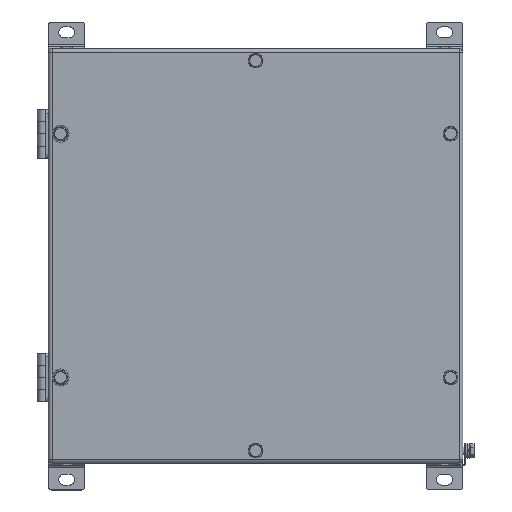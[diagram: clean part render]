
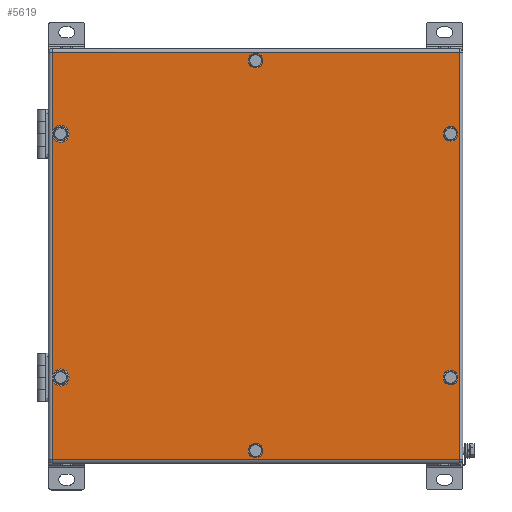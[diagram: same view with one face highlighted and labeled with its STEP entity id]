
A CAD part, top view. The second image highlights one B-rep face of the part: STEP entity #5619.
In plain terms, the highlighted planar face has unit normal (0, 0, 1).
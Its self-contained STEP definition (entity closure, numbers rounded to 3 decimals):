
#5115=CARTESIAN_POINT('',(167.0,-167.,150.));
#5116=VERTEX_POINT('',#5115);
#5182=CARTESIAN_POINT('',(167.0,167.,150.));
#5183=VERTEX_POINT('',#5182);
#5249=CARTESIAN_POINT('',(-167.0,-167.,150.));
#5250=VERTEX_POINT('',#5249);
#5322=CARTESIAN_POINT('',(167.0,-167.,150.));
#5323=DIRECTION('',(-1.0,0.0,0.0));
#5324=VECTOR('',#5323,334.0);
#5325=LINE('',#5322,#5324);
#5326=EDGE_CURVE('',#5116,#5250,#5325,.T.);
#5338=CARTESIAN_POINT('',(-167.0,167.,150.));
#5339=VERTEX_POINT('',#5338);
#5411=CARTESIAN_POINT('',(-167.0,-167.0,150.));
#5412=DIRECTION('',(0.0,1.0,0.0));
#5413=VECTOR('',#5412,334.0);
#5414=LINE('',#5411,#5413);
#5415=EDGE_CURVE('',#5250,#5339,#5414,.T.);
#5433=CARTESIAN_POINT('',(-167.0,167.,150.));
#5434=DIRECTION('',(1.0,0.0,0.0));
#5435=VECTOR('',#5434,334.0);
#5436=LINE('',#5433,#5435);
#5437=EDGE_CURVE('',#5339,#5183,#5436,.T.);
#5455=CARTESIAN_POINT('',(167.0,167.0,150.));
#5456=DIRECTION('',(0.0,-1.0,0.0));
#5457=VECTOR('',#5456,334.0);
#5458=LINE('',#5455,#5457);
#5459=EDGE_CURVE('',#5183,#5116,#5458,.T.);
#5542=CARTESIAN_POINT('',(0.,0.,150.));
#5543=DIRECTION('',(0.0,0.0,1.0));
#5544=DIRECTION('',(1.0,0.0,0.0));
#5545=AXIS2_PLACEMENT_3D('',#5542,#5543,#5544);
#5546=PLANE('',#5545);
#5547=ORIENTED_EDGE('',*,*,#5326,.F.);
#5548=ORIENTED_EDGE('',*,*,#5459,.F.);
#5549=ORIENTED_EDGE('',*,*,#5437,.F.);
#5550=ORIENTED_EDGE('',*,*,#5415,.F.);
#5551=EDGE_LOOP('',(#5547,#5548,#5549,#5550));
#5552=FACE_OUTER_BOUND('',#5551,.T.);
#5553=CARTESIAN_POINT('',(-156.25,100.,150.));
#5554=VERTEX_POINT('',#5553);
#5555=CARTESIAN_POINT('',(-160.0,100.,150.));
#5556=DIRECTION('',(0.0,0.0,-1.0));
#5557=DIRECTION('',(-1.0,0.0,0.0));
#5558=AXIS2_PLACEMENT_3D('',#5555,#5556,#5557);
#5559=CIRCLE('',#5558,3.75);
#5560=EDGE_CURVE('',#5554,#5554,#5559,.T.);
#5561=ORIENTED_EDGE('',*,*,#5560,.T.);
#5562=EDGE_LOOP('',(#5561));
#5563=FACE_BOUND('',#5562,.T.);
#5564=CARTESIAN_POINT('',(163.75,100.0,150.));
#5565=VERTEX_POINT('',#5564);
#5566=CARTESIAN_POINT('',(160.0,100.0,150.));
#5567=DIRECTION('',(0.0,0.0,-1.0));
#5568=DIRECTION('',(-1.0,0.0,0.0));
#5569=AXIS2_PLACEMENT_3D('',#5566,#5567,#5568);
#5570=CIRCLE('',#5569,3.75);
#5571=EDGE_CURVE('',#5565,#5565,#5570,.T.);
#5572=ORIENTED_EDGE('',*,*,#5571,.T.);
#5573=EDGE_LOOP('',(#5572));
#5574=FACE_BOUND('',#5573,.T.);
#5575=CARTESIAN_POINT('',(-156.25,-100.,150.));
#5576=VERTEX_POINT('',#5575);
#5577=CARTESIAN_POINT('',(-160.0,-100.,150.));
#5578=DIRECTION('',(0.0,0.0,-1.0));
#5579=DIRECTION('',(-1.0,0.0,0.0));
#5580=AXIS2_PLACEMENT_3D('',#5577,#5578,#5579);
#5581=CIRCLE('',#5580,3.75);
#5582=EDGE_CURVE('',#5576,#5576,#5581,.T.);
#5583=ORIENTED_EDGE('',*,*,#5582,.T.);
#5584=EDGE_LOOP('',(#5583));
#5585=FACE_BOUND('',#5584,.T.);
#5586=CARTESIAN_POINT('',(163.75,-100.0,150.0));
#5587=VERTEX_POINT('',#5586);
#5588=CARTESIAN_POINT('',(160.0,-100.0,150.0));
#5589=DIRECTION('',(0.0,0.0,-1.0));
#5590=DIRECTION('',(-1.0,0.0,0.0));
#5591=AXIS2_PLACEMENT_3D('',#5588,#5589,#5590);
#5592=CIRCLE('',#5591,3.75);
#5593=EDGE_CURVE('',#5587,#5587,#5592,.T.);
#5594=ORIENTED_EDGE('',*,*,#5593,.T.);
#5595=EDGE_LOOP('',(#5594));
#5596=FACE_BOUND('',#5595,.T.);
#5597=CARTESIAN_POINT('',(3.75,160.,150.));
#5598=VERTEX_POINT('',#5597);
#5599=CARTESIAN_POINT('',(0.,160.,150.));
#5600=DIRECTION('',(0.0,0.0,-1.0));
#5601=DIRECTION('',(-1.0,0.0,0.0));
#5602=AXIS2_PLACEMENT_3D('',#5599,#5600,#5601);
#5603=CIRCLE('',#5602,3.75);
#5604=EDGE_CURVE('',#5598,#5598,#5603,.T.);
#5605=ORIENTED_EDGE('',*,*,#5604,.T.);
#5606=EDGE_LOOP('',(#5605));
#5607=FACE_BOUND('',#5606,.T.);
#5608=CARTESIAN_POINT('',(3.75,-160.,150.));
#5609=VERTEX_POINT('',#5608);
#5610=CARTESIAN_POINT('',(0.,-160.,150.));
#5611=DIRECTION('',(0.0,0.0,-1.0));
#5612=DIRECTION('',(-1.0,0.0,0.0));
#5613=AXIS2_PLACEMENT_3D('',#5610,#5611,#5612);
#5614=CIRCLE('',#5613,3.75);
#5615=EDGE_CURVE('',#5609,#5609,#5614,.T.);
#5616=ORIENTED_EDGE('',*,*,#5615,.T.);
#5617=EDGE_LOOP('',(#5616));
#5618=FACE_BOUND('',#5617,.T.);
#5619=ADVANCED_FACE('',(#5552,#5563,#5574,#5585,#5596,#5607,#5618),#5546,.T.);
